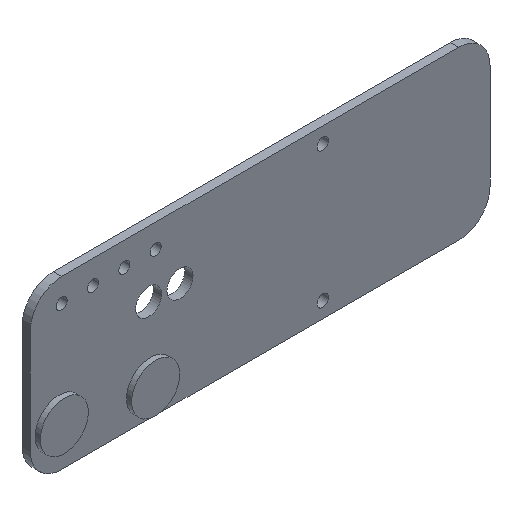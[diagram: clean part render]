
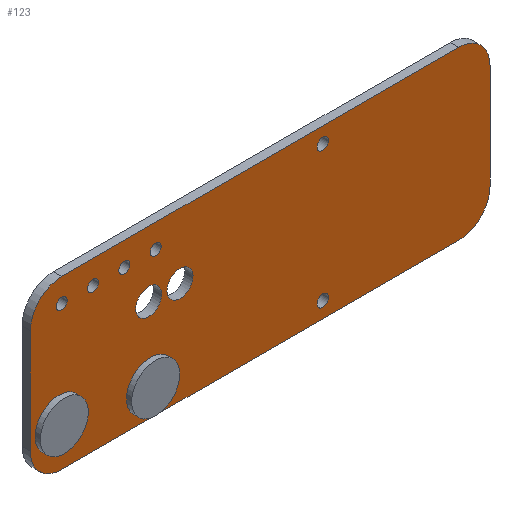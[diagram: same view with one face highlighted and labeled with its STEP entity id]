
A CAD part, isometric view. The second image highlights one B-rep face of the part: STEP entity #123.
In plain terms, the highlighted planar face has unit normal (0, -1, 0).
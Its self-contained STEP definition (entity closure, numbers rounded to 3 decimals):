
#22 = VERTEX_POINT('',#23);
#23 = CARTESIAN_POINT('',(-38.,-24.5,-16.));
#40 = VERTEX_POINT('',#41);
#41 = CARTESIAN_POINT('',(38.,-24.5,-16.));
#47 = EDGE_CURVE('',#22,#40,#48,.T.);
#48 = LINE('',#49,#50);
#49 = CARTESIAN_POINT('',(-38.,-24.5,-16.));
#50 = VECTOR('',#51,1.);
#51 = DIRECTION('',(1.,0.,0.));
#62 = VERTEX_POINT('',#63);
#63 = CARTESIAN_POINT('',(-44.,-24.5,-10.));
#79 = EDGE_CURVE('',#62,#22,#80,.T.);
#80 = CIRCLE('',#81,6.);
#81 = AXIS2_PLACEMENT_3D('',#82,#83,#84);
#82 = CARTESIAN_POINT('',(-38.,-24.5,-10.));
#83 = DIRECTION('',(0.,-1.,0.));
#84 = DIRECTION('',(-1.,-0.,0.));
#105 = VERTEX_POINT('',#106);
#106 = CARTESIAN_POINT('',(44.,-24.5,-10.));
#112 = EDGE_CURVE('',#40,#105,#113,.T.);
#113 = CIRCLE('',#114,6.);
#114 = AXIS2_PLACEMENT_3D('',#115,#116,#117);
#115 = CARTESIAN_POINT('',(38.,-24.5,-10.));
#116 = DIRECTION('',(0.,-1.,0.));
#117 = DIRECTION('',(0.,0.,-1.));
#123 = ADVANCED_FACE('',(#124,#169,#180,#191,#202,#213,#224,#235,#246,
    #257,#268),#279,.T.);
#124 = FACE_BOUND('',#125,.T.);
#125 = EDGE_LOOP('',(#126,#127,#128,#136,#145,#153,#162,#168));
#126 = ORIENTED_EDGE('',*,*,#47,.T.);
#127 = ORIENTED_EDGE('',*,*,#112,.T.);
#128 = ORIENTED_EDGE('',*,*,#129,.T.);
#129 = EDGE_CURVE('',#105,#130,#132,.T.);
#130 = VERTEX_POINT('',#131);
#131 = CARTESIAN_POINT('',(44.,-24.5,10.));
#132 = LINE('',#133,#134);
#133 = CARTESIAN_POINT('',(44.,-24.5,-10.));
#134 = VECTOR('',#135,1.);
#135 = DIRECTION('',(0.,0.,1.));
#136 = ORIENTED_EDGE('',*,*,#137,.T.);
#137 = EDGE_CURVE('',#130,#138,#140,.T.);
#138 = VERTEX_POINT('',#139);
#139 = CARTESIAN_POINT('',(38.,-24.5,16.));
#140 = CIRCLE('',#141,6.);
#141 = AXIS2_PLACEMENT_3D('',#142,#143,#144);
#142 = CARTESIAN_POINT('',(38.,-24.5,10.));
#143 = DIRECTION('',(0.,-1.,0.));
#144 = DIRECTION('',(1.,0.,0.));
#145 = ORIENTED_EDGE('',*,*,#146,.T.);
#146 = EDGE_CURVE('',#138,#147,#149,.T.);
#147 = VERTEX_POINT('',#148);
#148 = CARTESIAN_POINT('',(-38.,-24.5,16.));
#149 = LINE('',#150,#151);
#150 = CARTESIAN_POINT('',(38.,-24.5,16.));
#151 = VECTOR('',#152,1.);
#152 = DIRECTION('',(-1.,0.,0.));
#153 = ORIENTED_EDGE('',*,*,#154,.T.);
#154 = EDGE_CURVE('',#147,#155,#157,.T.);
#155 = VERTEX_POINT('',#156);
#156 = CARTESIAN_POINT('',(-44.,-24.5,10.));
#157 = CIRCLE('',#158,6.);
#158 = AXIS2_PLACEMENT_3D('',#159,#160,#161);
#159 = CARTESIAN_POINT('',(-38.,-24.5,10.));
#160 = DIRECTION('',(0.,-1.,0.));
#161 = DIRECTION('',(0.,0.,1.));
#162 = ORIENTED_EDGE('',*,*,#163,.T.);
#163 = EDGE_CURVE('',#155,#62,#164,.T.);
#164 = LINE('',#165,#166);
#165 = CARTESIAN_POINT('',(-44.,-24.5,10.));
#166 = VECTOR('',#167,1.);
#167 = DIRECTION('',(0.,0.,-1.));
#168 = ORIENTED_EDGE('',*,*,#79,.T.);
#169 = FACE_BOUND('',#170,.T.);
#170 = EDGE_LOOP('',(#171));
#171 = ORIENTED_EDGE('',*,*,#172,.F.);
#172 = EDGE_CURVE('',#173,#173,#175,.T.);
#173 = VERTEX_POINT('',#174);
#174 = CARTESIAN_POINT('',(-36.95,-24.5,11.5));
#175 = CIRCLE('',#176,1.05);
#176 = AXIS2_PLACEMENT_3D('',#177,#178,#179);
#177 = CARTESIAN_POINT('',(-38.,-24.5,11.5));
#178 = DIRECTION('',(0.,-1.,0.));
#179 = DIRECTION('',(1.,0.,0.));
#180 = FACE_BOUND('',#181,.T.);
#181 = EDGE_LOOP('',(#182));
#182 = ORIENTED_EDGE('',*,*,#183,.F.);
#183 = EDGE_CURVE('',#184,#184,#186,.T.);
#184 = VERTEX_POINT('',#185);
#185 = CARTESIAN_POINT('',(-30.95,-24.5,11.5));
#186 = CIRCLE('',#187,1.05);
#187 = AXIS2_PLACEMENT_3D('',#188,#189,#190);
#188 = CARTESIAN_POINT('',(-32.,-24.5,11.5));
#189 = DIRECTION('',(0.,-1.,0.));
#190 = DIRECTION('',(1.,0.,0.));
#191 = FACE_BOUND('',#192,.T.);
#192 = EDGE_LOOP('',(#193));
#193 = ORIENTED_EDGE('',*,*,#194,.F.);
#194 = EDGE_CURVE('',#195,#195,#197,.T.);
#195 = VERTEX_POINT('',#196);
#196 = CARTESIAN_POINT('',(-24.95,-24.5,11.5));
#197 = CIRCLE('',#198,1.05);
#198 = AXIS2_PLACEMENT_3D('',#199,#200,#201);
#199 = CARTESIAN_POINT('',(-26.,-24.5,11.5));
#200 = DIRECTION('',(0.,-1.,0.));
#201 = DIRECTION('',(1.,0.,0.));
#202 = FACE_BOUND('',#203,.T.);
#203 = EDGE_LOOP('',(#204));
#204 = ORIENTED_EDGE('',*,*,#205,.F.);
#205 = EDGE_CURVE('',#206,#206,#208,.T.);
#206 = VERTEX_POINT('',#207);
#207 = CARTESIAN_POINT('',(-18.95,-24.5,11.5));
#208 = CIRCLE('',#209,1.05);
#209 = AXIS2_PLACEMENT_3D('',#210,#211,#212);
#210 = CARTESIAN_POINT('',(-20.,-24.5,11.5));
#211 = DIRECTION('',(0.,-1.,0.));
#212 = DIRECTION('',(1.,0.,0.));
#213 = FACE_BOUND('',#214,.T.);
#214 = EDGE_LOOP('',(#215));
#215 = ORIENTED_EDGE('',*,*,#216,.F.);
#216 = EDGE_CURVE('',#217,#217,#219,.T.);
#217 = VERTEX_POINT('',#218);
#218 = CARTESIAN_POINT('',(-18.85,-24.5,3.513));
#219 = CIRCLE('',#220,2.5);
#220 = AXIS2_PLACEMENT_3D('',#221,#222,#223);
#221 = CARTESIAN_POINT('',(-21.35,-24.5,3.513));
#222 = DIRECTION('',(0.,-1.,0.));
#223 = DIRECTION('',(1.,0.,0.));
#224 = FACE_BOUND('',#225,.T.);
#225 = EDGE_LOOP('',(#226));
#226 = ORIENTED_EDGE('',*,*,#227,.F.);
#227 = EDGE_CURVE('',#228,#228,#230,.T.);
#228 = VERTEX_POINT('',#229);
#229 = CARTESIAN_POINT('',(-12.85,-24.5,3.513));
#230 = CIRCLE('',#231,2.5);
#231 = AXIS2_PLACEMENT_3D('',#232,#233,#234);
#232 = CARTESIAN_POINT('',(-15.35,-24.5,3.513));
#233 = DIRECTION('',(0.,-1.,0.));
#234 = DIRECTION('',(1.,0.,0.));
#235 = FACE_BOUND('',#236,.T.);
#236 = EDGE_LOOP('',(#237));
#237 = ORIENTED_EDGE('',*,*,#238,.F.);
#238 = EDGE_CURVE('',#239,#239,#241,.T.);
#239 = VERTEX_POINT('',#240);
#240 = CARTESIAN_POINT('',(-33.9,-24.5,-8.));
#241 = CIRCLE('',#242,4.6);
#242 = AXIS2_PLACEMENT_3D('',#243,#244,#245);
#243 = CARTESIAN_POINT('',(-38.5,-24.5,-8.));
#244 = DIRECTION('',(0.,-1.,0.));
#245 = DIRECTION('',(1.,0.,0.));
#246 = FACE_BOUND('',#247,.T.);
#247 = EDGE_LOOP('',(#248));
#248 = ORIENTED_EDGE('',*,*,#249,.F.);
#249 = EDGE_CURVE('',#250,#250,#252,.T.);
#250 = VERTEX_POINT('',#251);
#251 = CARTESIAN_POINT('',(-16.4,-24.5,-10.5));
#252 = CIRCLE('',#253,4.6);
#253 = AXIS2_PLACEMENT_3D('',#254,#255,#256);
#254 = CARTESIAN_POINT('',(-21.,-24.5,-10.5));
#255 = DIRECTION('',(0.,-1.,0.));
#256 = DIRECTION('',(1.,0.,0.));
#257 = FACE_BOUND('',#258,.T.);
#258 = EDGE_LOOP('',(#259));
#259 = ORIENTED_EDGE('',*,*,#260,.F.);
#260 = EDGE_CURVE('',#261,#261,#263,.T.);
#261 = VERTEX_POINT('',#262);
#262 = CARTESIAN_POINT('',(13.1,-24.5,13.));
#263 = CIRCLE('',#264,1.1);
#264 = AXIS2_PLACEMENT_3D('',#265,#266,#267);
#265 = CARTESIAN_POINT('',(12.,-24.5,13.));
#266 = DIRECTION('',(0.,-1.,0.));
#267 = DIRECTION('',(1.,0.,0.));
#268 = FACE_BOUND('',#269,.T.);
#269 = EDGE_LOOP('',(#270));
#270 = ORIENTED_EDGE('',*,*,#271,.F.);
#271 = EDGE_CURVE('',#272,#272,#274,.T.);
#272 = VERTEX_POINT('',#273);
#273 = CARTESIAN_POINT('',(13.1,-24.5,-13.));
#274 = CIRCLE('',#275,1.1);
#275 = AXIS2_PLACEMENT_3D('',#276,#277,#278);
#276 = CARTESIAN_POINT('',(12.,-24.5,-13.));
#277 = DIRECTION('',(0.,-1.,0.));
#278 = DIRECTION('',(1.,0.,0.));
#279 = PLANE('',#280);
#280 = AXIS2_PLACEMENT_3D('',#281,#282,#283);
#281 = CARTESIAN_POINT('',(0.,-24.5,0.));
#282 = DIRECTION('',(-0.,-1.,-0.));
#283 = DIRECTION('',(0.,0.,-1.));
